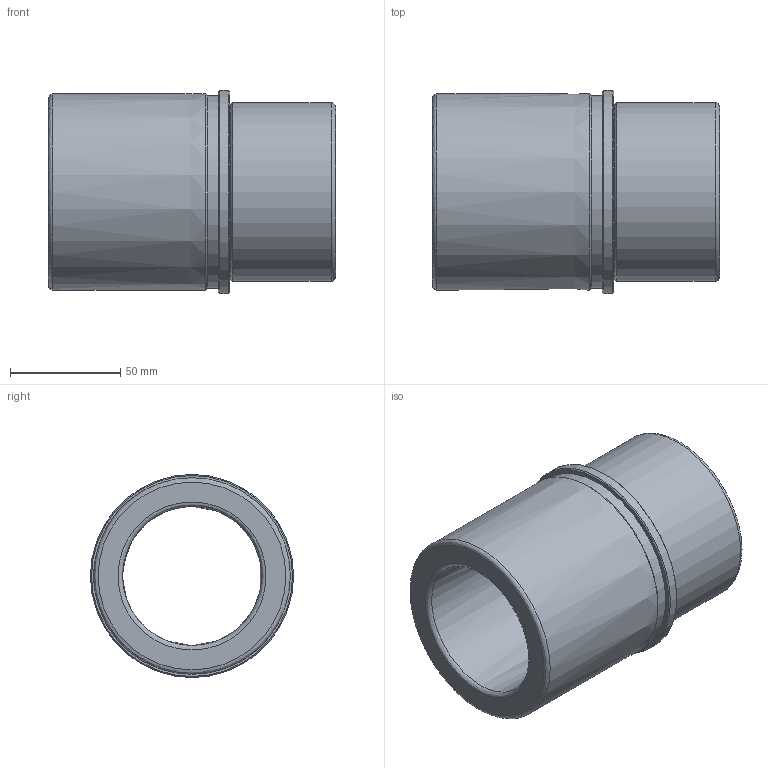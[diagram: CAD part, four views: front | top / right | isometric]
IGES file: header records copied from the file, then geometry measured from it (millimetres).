
Start section: Data from Parasolid IGES Translator 20.0.26, Copyright(c) 2006 Siemens P LM Software. All Rights Reserved.
Global section: file name: WZ - 4055 63 x 130.igs; native system: By Siemens PLM Incorporated; preprocessor: XPlus GENERIC/IGES 20.0.26; author: Noname; organization: Noname; date: 20201204.204816; units: millimetre
Bounding box: 130 x 92 x 92 mm (x, y, z)
Surface area: 68306.3 mm2 (no closed solid volume)
Topology: 0 solids, 0 shells, 21 faces, 82 edges, 61 vertices
Faces by surface type: revolution 16, extrusion 5
